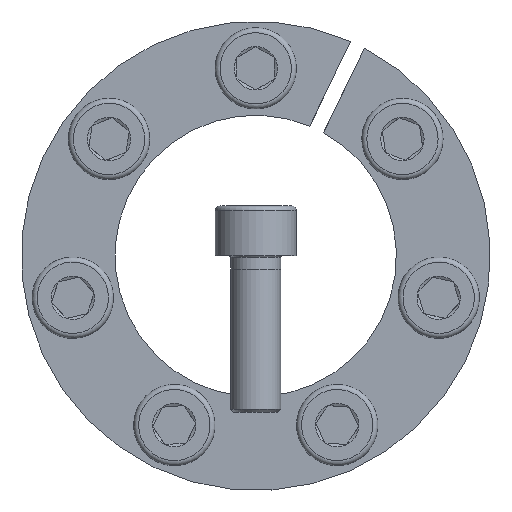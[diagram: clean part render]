
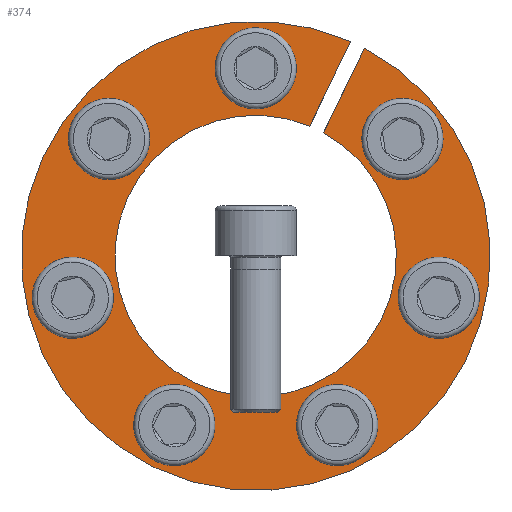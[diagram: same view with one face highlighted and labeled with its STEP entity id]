
A CAD part, front view. The second image highlights one B-rep face of the part: STEP entity #374.
In plain terms, the highlighted planar face has unit normal (0, -1, 0).
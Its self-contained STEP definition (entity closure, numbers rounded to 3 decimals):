
#374 = ADVANCED_FACE( '', ( #575, #576, #577, #578, #579, #580, #581, #582 ), #583, .F. );
#575 = FACE_BOUND( '', #729, .T. );
#576 = FACE_BOUND( '', #730, .T. );
#577 = FACE_BOUND( '', #731, .T. );
#578 = FACE_OUTER_BOUND( '', #732, .T. );
#579 = FACE_BOUND( '', #733, .T. );
#580 = FACE_BOUND( '', #734, .T. );
#581 = FACE_BOUND( '', #735, .T. );
#582 = FACE_BOUND( '', #736, .T. );
#583 = PLANE( '', #737 );
#729 = EDGE_LOOP( '', ( #932 ) );
#730 = EDGE_LOOP( '', ( #933 ) );
#731 = EDGE_LOOP( '', ( #934 ) );
#732 = EDGE_LOOP( '', ( #935, #936, #937, #938 ) );
#733 = EDGE_LOOP( '', ( #939 ) );
#734 = EDGE_LOOP( '', ( #940 ) );
#735 = EDGE_LOOP( '', ( #941 ) );
#736 = EDGE_LOOP( '', ( #942 ) );
#737 = AXIS2_PLACEMENT_3D( '', #943, #944, #945 );
#932 = ORIENTED_EDGE( '', *, *, #1252, .T. );
#933 = ORIENTED_EDGE( '', *, *, #1253, .T. );
#934 = ORIENTED_EDGE( '', *, *, #1254, .T. );
#935 = ORIENTED_EDGE( '', *, *, #1250, .F. );
#936 = ORIENTED_EDGE( '', *, *, #1246, .F. );
#937 = ORIENTED_EDGE( '', *, *, #1255, .T. );
#938 = ORIENTED_EDGE( '', *, *, #1256, .F. );
#939 = ORIENTED_EDGE( '', *, *, #1257, .T. );
#940 = ORIENTED_EDGE( '', *, *, #1258, .T. );
#941 = ORIENTED_EDGE( '', *, *, #1259, .T. );
#942 = ORIENTED_EDGE( '', *, *, #1260, .T. );
#943 = CARTESIAN_POINT( '', ( 0., 0., 37.5 ) );
#944 = DIRECTION( '', ( 0., 1., 0. ) );
#945 = DIRECTION( '', ( 0., 0., 1. ) );
#1246 = EDGE_CURVE( '', #1377, #1379, #1380, .T. );
#1250 = EDGE_CURVE( '', #1379, #1386, #1387, .T. );
#1252 = EDGE_CURVE( '', #1389, #1389, #1390, .T. );
#1253 = EDGE_CURVE( '', #1391, #1391, #1392, .T. );
#1254 = EDGE_CURVE( '', #1393, #1393, #1394, .T. );
#1255 = EDGE_CURVE( '', #1377, #1395, #1396, .T. );
#1256 = EDGE_CURVE( '', #1386, #1395, #1397, .T. );
#1257 = EDGE_CURVE( '', #1398, #1398, #1399, .T. );
#1258 = EDGE_CURVE( '', #1400, #1400, #1401, .T. );
#1259 = EDGE_CURVE( '', #1402, #1402, #1403, .T. );
#1260 = EDGE_CURVE( '', #1404, #1404, #1405, .T. );
#1377 = VERTEX_POINT( '', #1497 );
#1379 = VERTEX_POINT( '', #1500 );
#1380 = LINE( '', #1501, #1502 );
#1386 = VERTEX_POINT( '', #1510 );
#1387 = CIRCLE( '', #1511, 22.5 );
#1389 = VERTEX_POINT( '', #1514 );
#1390 = CIRCLE( '', #1515, 4. );
#1391 = VERTEX_POINT( '', #1516 );
#1392 = CIRCLE( '', #1517, 4. );
#1393 = VERTEX_POINT( '', #1518 );
#1394 = CIRCLE( '', #1519, 4. );
#1395 = VERTEX_POINT( '', #1520 );
#1396 = CIRCLE( '', #1521, 37.5 );
#1397 = LINE( '', #1522, #1523 );
#1398 = VERTEX_POINT( '', #1524 );
#1399 = CIRCLE( '', #1525, 4. );
#1400 = VERTEX_POINT( '', #1526 );
#1401 = CIRCLE( '', #1527, 4. );
#1402 = VERTEX_POINT( '', #1528 );
#1403 = CIRCLE( '', #1529, 4. );
#1404 = VERTEX_POINT( '', #1530 );
#1405 = CIRCLE( '', #1531, 4. );
#1497 = CARTESIAN_POINT( '', ( 15.154, 0., 34.302 ) );
#1500 = CARTESIAN_POINT( '', ( 8.64, 0., 20.775 ) );
#1501 = CARTESIAN_POINT( '', ( 15.163, 0., 34.32 ) );
#1502 = VECTOR( '', #1612, 1000. );
#1510 = CARTESIAN_POINT( '', ( 10.856, 0., 19.708 ) );
#1511 = AXIS2_PLACEMENT_3D( '', #1618, #1619, #1620 );
#1514 = CARTESIAN_POINT( '', ( -30.138, 0., -2.776 ) );
#1515 = AXIS2_PLACEMENT_3D( '', #1622, #1623, #1624 );
#1516 = CARTESIAN_POINT( '', ( 9.413, 0., -28.765 ) );
#1517 = AXIS2_PLACEMENT_3D( '', #1625, #1626, #1627 );
#1518 = CARTESIAN_POINT( '', ( 25.949, 0., 15.577 ) );
#1519 = AXIS2_PLACEMENT_3D( '', #1628, #1629, #1630 );
#1520 = CARTESIAN_POINT( '', ( 17.37, 0., 33.235 ) );
#1521 = AXIS2_PLACEMENT_3D( '', #1631, #1632, #1633 );
#1522 = CARTESIAN_POINT( '', ( 10.856, 0., 19.708 ) );
#1523 = VECTOR( '', #1634, 1000. );
#1524 = CARTESIAN_POINT( '', ( 4., 0., 30. ) );
#1525 = AXIS2_PLACEMENT_3D( '', #1635, #1636, #1637 );
#1526 = CARTESIAN_POINT( '', ( 28.358, 0., -10.575 ) );
#1527 = AXIS2_PLACEMENT_3D( '', #1638, #1639, #1640 );
#1528 = CARTESIAN_POINT( '', ( -16.62, 0., -25.294 ) );
#1529 = AXIS2_PLACEMENT_3D( '', #1641, #1642, #1643 );
#1530 = CARTESIAN_POINT( '', ( -20.961, 0., 21.832 ) );
#1531 = AXIS2_PLACEMENT_3D( '', #1644, #1645, #1646 );
#1612 = DIRECTION( '', ( -0.434, 0., -0.901 ) );
#1618 = CARTESIAN_POINT( '', ( 0., 0., 0. ) );
#1619 = DIRECTION( '', ( 0., -1., 0. ) );
#1620 = DIRECTION( '', ( 0., 0., -1. ) );
#1622 = CARTESIAN_POINT( '', ( -29.248, 0., -6.676 ) );
#1623 = DIRECTION( '', ( 0., 1., 0. ) );
#1624 = DIRECTION( '', ( -0.223, 0., 0.975 ) );
#1625 = CARTESIAN_POINT( '', ( 13.017, 0., -27.029 ) );
#1626 = DIRECTION( '', ( 0., 1., 0. ) );
#1627 = DIRECTION( '', ( -0.901, 0., -0.434 ) );
#1628 = CARTESIAN_POINT( '', ( 23.455, 0., 18.705 ) );
#1629 = DIRECTION( '', ( 0., 1., 0. ) );
#1630 = DIRECTION( '', ( 0.623, 0., -0.782 ) );
#1631 = CARTESIAN_POINT( '', ( 0., 0., 0. ) );
#1632 = DIRECTION( '', ( 0., -1., 0. ) );
#1633 = DIRECTION( '', ( 0., 0., -1. ) );
#1634 = DIRECTION( '', ( 0.434, 0., 0.901 ) );
#1635 = CARTESIAN_POINT( '', ( 0., 0., 30. ) );
#1636 = DIRECTION( '', ( 0., 1., 0. ) );
#1637 = DIRECTION( '', ( 1., 0., 0. ) );
#1638 = CARTESIAN_POINT( '', ( 29.248, 0., -6.676 ) );
#1639 = DIRECTION( '', ( 0., 1., 0. ) );
#1640 = DIRECTION( '', ( -0.223, 0., -0.975 ) );
#1641 = CARTESIAN_POINT( '', ( -13.017, 0., -27.029 ) );
#1642 = DIRECTION( '', ( 0., 1., 0. ) );
#1643 = DIRECTION( '', ( -0.901, 0., 0.434 ) );
#1644 = CARTESIAN_POINT( '', ( -23.455, 0., 18.705 ) );
#1645 = DIRECTION( '', ( 0., 1., 0. ) );
#1646 = DIRECTION( '', ( 0.623, 0., 0.782 ) );
